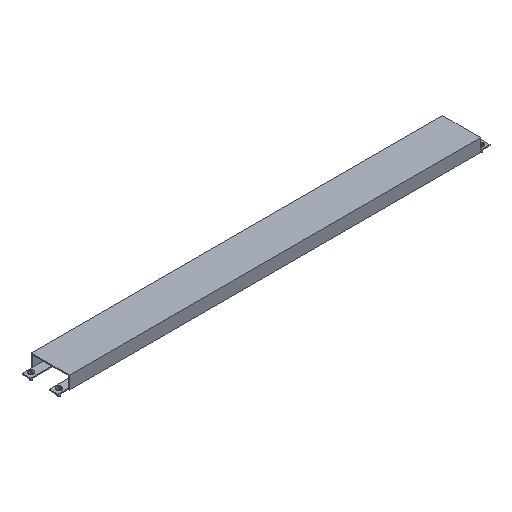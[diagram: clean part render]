
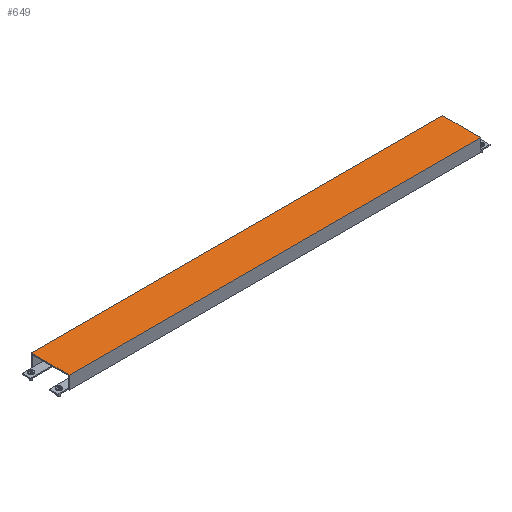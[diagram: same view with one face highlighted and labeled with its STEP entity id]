
A CAD part, isometric view. The second image highlights one B-rep face of the part: STEP entity #649.
In plain terms, the highlighted planar face has unit normal (0, 0, 1).
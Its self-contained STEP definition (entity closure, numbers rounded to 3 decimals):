
#328 = VERTEX_POINT('',#329);
#329 = CARTESIAN_POINT('',(416.5,-39.,0.));
#335 = EDGE_CURVE('',#328,#336,#338,.T.);
#336 = VERTEX_POINT('',#337);
#337 = CARTESIAN_POINT('',(-416.5,-39.,-0.));
#338 = LINE('',#339,#340);
#339 = CARTESIAN_POINT('',(0.,-39.,-0.));
#340 = VECTOR('',#341,1.);
#341 = DIRECTION('',(-1.,-0.,-0.));
#516 = VERTEX_POINT('',#517);
#517 = CARTESIAN_POINT('',(-416.5,39.,0.));
#523 = EDGE_CURVE('',#516,#524,#526,.T.);
#524 = VERTEX_POINT('',#525);
#525 = CARTESIAN_POINT('',(416.5,39.,0.));
#526 = LINE('',#527,#528);
#527 = CARTESIAN_POINT('',(0.,39.,0.));
#528 = VECTOR('',#529,1.);
#529 = DIRECTION('',(1.,-0.,-0.));
#649 = ADVANCED_FACE('',(#650),#698,.F.);
#650 = FACE_BOUND('',#651,.T.);
#651 = EDGE_LOOP('',(#652,#662,#668,#669,#677,#685,#691,#692));
#652 = ORIENTED_EDGE('',*,*,#653,.T.);
#653 = EDGE_CURVE('',#654,#656,#658,.T.);
#654 = VERTEX_POINT('',#655);
#655 = CARTESIAN_POINT('',(-416.5,36.4,0.));
#656 = VERTEX_POINT('',#657);
#657 = CARTESIAN_POINT('',(-416.5,-36.4,0.));
#658 = LINE('',#659,#660);
#659 = CARTESIAN_POINT('',(-416.5,-39.,0.));
#660 = VECTOR('',#661,1.);
#661 = DIRECTION('',(-0.,-1.,-0.));
#662 = ORIENTED_EDGE('',*,*,#663,.T.);
#663 = EDGE_CURVE('',#656,#336,#664,.T.);
#664 = LINE('',#665,#666);
#665 = CARTESIAN_POINT('',(-416.5,-36.4,0.));
#666 = VECTOR('',#667,1.);
#667 = DIRECTION('',(-0.,-1.,-0.));
#668 = ORIENTED_EDGE('',*,*,#335,.F.);
#669 = ORIENTED_EDGE('',*,*,#670,.F.);
#670 = EDGE_CURVE('',#671,#328,#673,.T.);
#671 = VERTEX_POINT('',#672);
#672 = CARTESIAN_POINT('',(416.5,-36.4,0.));
#673 = LINE('',#674,#675);
#674 = CARTESIAN_POINT('',(416.5,0.,0.));
#675 = VECTOR('',#676,1.);
#676 = DIRECTION('',(-0.,-1.,0.));
#677 = ORIENTED_EDGE('',*,*,#678,.T.);
#678 = EDGE_CURVE('',#671,#679,#681,.T.);
#679 = VERTEX_POINT('',#680);
#680 = CARTESIAN_POINT('',(416.5,36.4,0.));
#681 = LINE('',#682,#683);
#682 = CARTESIAN_POINT('',(416.5,-39.,0.));
#683 = VECTOR('',#684,1.);
#684 = DIRECTION('',(0.,1.,0.));
#685 = ORIENTED_EDGE('',*,*,#686,.T.);
#686 = EDGE_CURVE('',#679,#524,#687,.T.);
#687 = LINE('',#688,#689);
#688 = CARTESIAN_POINT('',(416.5,36.4,0.));
#689 = VECTOR('',#690,1.);
#690 = DIRECTION('',(-0.,1.,-0.));
#691 = ORIENTED_EDGE('',*,*,#523,.F.);
#692 = ORIENTED_EDGE('',*,*,#693,.F.);
#693 = EDGE_CURVE('',#654,#516,#694,.T.);
#694 = LINE('',#695,#696);
#695 = CARTESIAN_POINT('',(-416.5,0.,0.));
#696 = VECTOR('',#697,1.);
#697 = DIRECTION('',(0.,1.,0.));
#698 = PLANE('',#699);
#699 = AXIS2_PLACEMENT_3D('',#700,#701,#702);
#700 = CARTESIAN_POINT('',(0.,0.,0.));
#701 = DIRECTION('',(0.,0.,-1.));
#702 = DIRECTION('',(-1.,0.,-0.));
